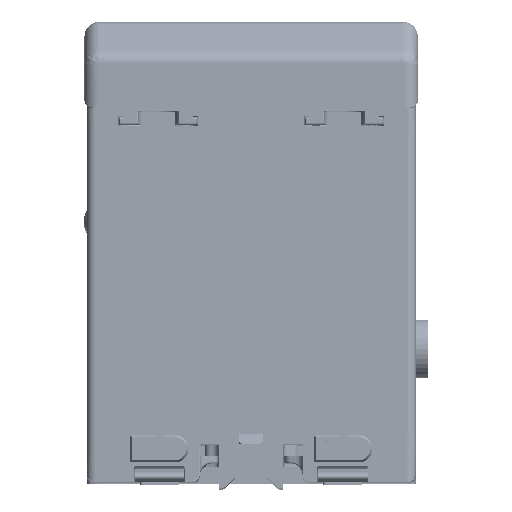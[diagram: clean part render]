
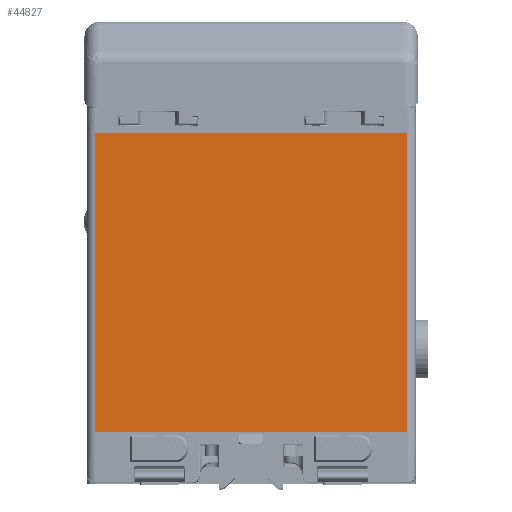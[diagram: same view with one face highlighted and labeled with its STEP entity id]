
A CAD part, top view. The second image highlights one B-rep face of the part: STEP entity #44827.
In plain terms, the highlighted planar face has unit normal (0, 0, 1) as drawn and (1, 0, 0) by its records, which use the part's own axes.
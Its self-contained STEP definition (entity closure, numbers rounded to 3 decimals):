
#2937 = CARTESIAN_POINT ( 'NONE',  ( 27.371, 71., -37. ) ) ;
#5048 = DIRECTION ( 'NONE',  ( -1., 0., 0. ) ) ;
#10353 = CARTESIAN_POINT ( 'NONE',  ( 27.371, 0., -37. ) ) ;
#18155 = ORIENTED_EDGE ( 'NONE', *, *, #128959, .T. ) ;
#26922 = EDGE_LOOP ( 'NONE', ( #56726, #136533, #47618, #18155 ) ) ;
#27476 = LINE ( 'NONE', #10353, #104809 ) ;
#30253 = DIRECTION ( 'NONE',  ( 0., 0., 1. ) ) ;
#37056 = VECTOR ( 'NONE', #68911, 1000. ) ;
#37576 = LINE ( 'NONE', #118869, #56547 ) ;
#41749 = CARTESIAN_POINT ( 'NONE',  ( 27.371, 71., -37. ) ) ;
#44182 = CARTESIAN_POINT ( 'NONE',  ( 27.371, 0., -37. ) ) ;
#44827 = ADVANCED_FACE ( 'NONE', ( #54027 ), #109283, .F. ) ;
#46198 = VERTEX_POINT ( 'NONE', #101910 ) ;
#47618 = ORIENTED_EDGE ( 'NONE', *, *, #128592, .F. ) ;
#54027 = FACE_OUTER_BOUND ( 'NONE', #26922, .T. ) ;
#56547 = VECTOR ( 'NONE', #140359, 1000. ) ;
#56726 = ORIENTED_EDGE ( 'NONE', *, *, #57643, .T. ) ;
#57643 = EDGE_CURVE ( 'NONE', #46198, #100782, #27476, .T. ) ;
#65796 = EDGE_CURVE ( 'NONE', #89282, #100782, #120227, .T. ) ;
#68911 = DIRECTION ( 'NONE',  ( 0., -1., 0. ) ) ;
#76454 = DIRECTION ( 'NONE',  ( 0., 0., -1. ) ) ;
#82623 = CARTESIAN_POINT ( 'NONE',  ( 27.371, 71., 37. ) ) ;
#85320 = VECTOR ( 'NONE', #107205, 1000. ) ;
#89282 = VERTEX_POINT ( 'NONE', #131626 ) ;
#99199 = AXIS2_PLACEMENT_3D ( 'NONE', #41749, #5048, #30253 ) ;
#100782 = VERTEX_POINT ( 'NONE', #44182 ) ;
#101910 = CARTESIAN_POINT ( 'NONE',  ( 27.371, 0., 37. ) ) ;
#104809 = VECTOR ( 'NONE', #76454, 1000. ) ;
#107205 = DIRECTION ( 'NONE',  ( 0., -1., 0. ) ) ;
#108723 = VERTEX_POINT ( 'NONE', #151127 ) ;
#109283 = PLANE ( 'NONE',  #99199 ) ;
#118869 = CARTESIAN_POINT ( 'NONE',  ( 27.371, 71., -37. ) ) ;
#120227 = LINE ( 'NONE', #2937, #85320 ) ;
#128592 = EDGE_CURVE ( 'NONE', #108723, #89282, #37576, .T. ) ;
#128959 = EDGE_CURVE ( 'NONE', #108723, #46198, #130191, .T. ) ;
#130191 = LINE ( 'NONE', #82623, #37056 ) ;
#131626 = CARTESIAN_POINT ( 'NONE',  ( 27.371, 71., -37. ) ) ;
#136533 = ORIENTED_EDGE ( 'NONE', *, *, #65796, .F. ) ;
#140359 = DIRECTION ( 'NONE',  ( 0., 0., -1. ) ) ;
#151127 = CARTESIAN_POINT ( 'NONE',  ( 27.371, 71., 37. ) ) ;
